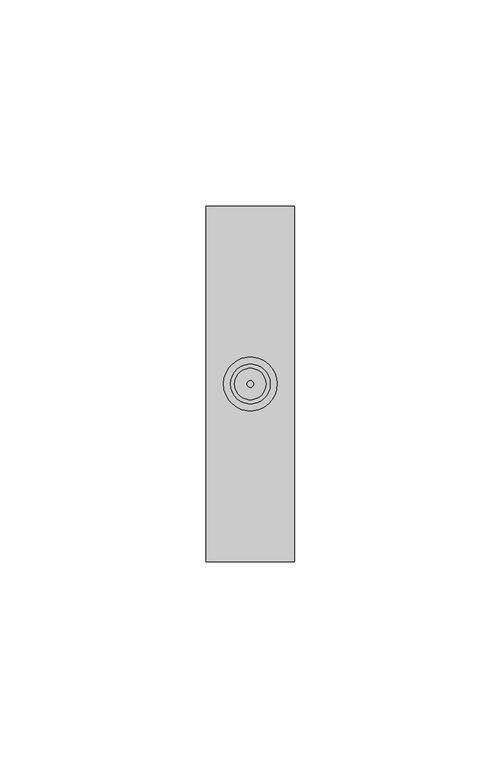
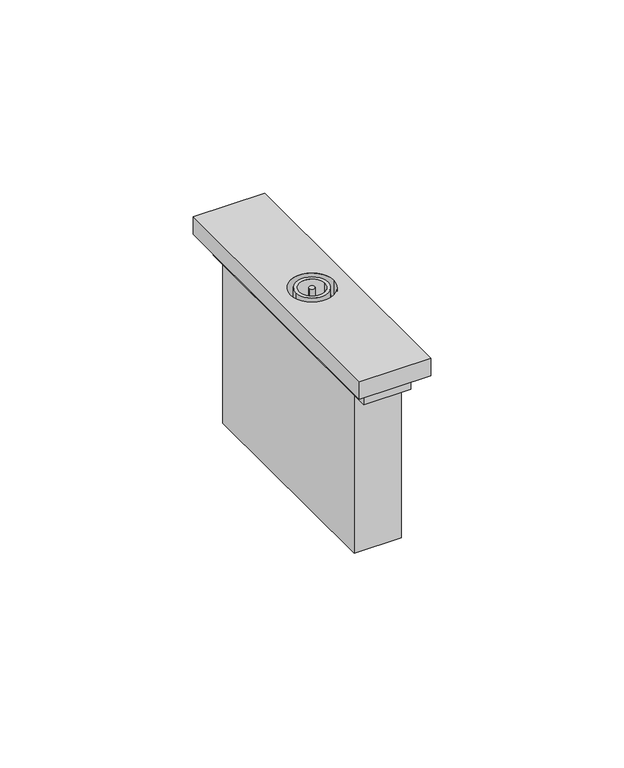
"""IFC4 building model written with IfcOpenShell, lengths in millimetres: electric appliance geometry, BT_LN-1M_Presa TV : Presa TV - Art. K4202P10 - 1M - Cover Bianco."""

from ifc_helpers import new_model, si_unit, point, frame, origin, origin_with_axes, origin_2d, place, context, project, spatial, polyline, circle_curve, trimmed, segment, composite_curve, outline, extrude, source, transform, mapped, element, save


def electric_appliance_a1e4e876(model_context):
    return source(origin(), model_context, "Body", "SweptSolid", [
        extrude(outline(polyline([(-7.0, 39.0), (7.0, 39.0), (7.0, -39.0), (-7.0, -39.0), (-7.0, 39.0)]), holes=[composite_curve([segment(trimmed(circle_curve(origin_2d(), 6.8), [point((0.0, -6.8))], [point((0.0, 6.8))], True, "CARTESIAN"), True, "CONTINUOUS"), segment(trimmed(circle_curve(origin_2d(), 6.8), [point((0.0, 6.8))], [point((0.0, -6.8))], True, "CARTESIAN"), True, "CONTINUOUS")], self_intersect=False)]), frame((0.0, 0.0, 50.0), z_axis=(0.0, 0.0, 1.0), x_axis=(1.0, 0.0, 0.0)), (0.0, 0.0, 1.0), 5.5),
        extrude(outline(polyline([(-7.0, 34.0), (7.0, 34.0), (7.0, -34.0), (-7.0, -34.0), (-7.0, 34.0)])), origin_with_axes(), (0.0, 0.0, 1.0), 50.0),
        extrude(outline(polyline([(-10.7, -43.0), (-10.7, 43.0), (10.7, 43.0), (10.7, -43.0), (-10.7, -43.0)]), holes=[composite_curve([segment(trimmed(circle_curve(origin_2d(), 6.5), [point((6.5, 0.0))], [point((-6.5, 0.0))], True, "CARTESIAN"), True, "CONTINUOUS"), segment(trimmed(circle_curve(origin_2d(), 6.5), [point((-6.5, 0.0))], [point((6.5, 0.0))], True, "CARTESIAN"), True, "CONTINUOUS")], self_intersect=False)]), frame((0.0, 0.0, 55.5), z_axis=(0.0, 0.0, 1.0), x_axis=(1.0, 0.0, 0.0)), (0.0, 0.0, 1.0), 5.5),
        extrude(outline(composite_curve([segment(trimmed(circle_curve(origin_2d(), 4.8), [point((4.8, 0.0))], [point((-4.8, 0.0))], False, "CARTESIAN"), True, "CONTINUOUS"), segment(trimmed(circle_curve(origin_2d(), 4.8), [point((-4.8, 0.0))], [point((4.8, 0.0))], False, "CARTESIAN"), True, "CONTINUOUS")], self_intersect=False), holes=[composite_curve([segment(trimmed(circle_curve(origin_2d(), 3.8), [point((3.8, 0.0))], [point((-3.8, 0.0))], True, "CARTESIAN"), True, "CONTINUOUS"), segment(trimmed(circle_curve(origin_2d(), 3.8), [point((-3.8, 0.0))], [point((3.8, 0.0))], True, "CARTESIAN"), True, "CONTINUOUS")], self_intersect=False)]), frame((0.0, 0.0, 50.0), z_axis=(0.0, 0.0, 1.0), x_axis=(1.0, 0.0, 0.0)), (0.0, 0.0, 1.0), 11.0),
        extrude(outline(composite_curve([segment(trimmed(circle_curve(origin_2d(), 0.8), [point((0.8, 0.0))], [point((-0.8, 0.0))], False, "CARTESIAN"), True, "CONTINUOUS"), segment(trimmed(circle_curve(origin_2d(), 0.8), [point((-0.8, 0.0))], [point((0.8, 0.0))], False, "CARTESIAN"), True, "CONTINUOUS")], self_intersect=False)), frame((0.0, 0.0, 50.0), z_axis=(0.0, 0.0, 1.0), x_axis=(1.0, 0.0, 0.0)), (0.0, 0.0, 1.0), 11.0),
    ])


if __name__ == "__main__":
    model = new_model("IFC4")
    model_context = context("Model", 3, world=origin())
    ifc_project = project(units=[si_unit("LENGTHUNIT", "METRE", prefix="MILLI")], contexts=[model_context])
    site = spatial("IfcSite", under=ifc_project)
    building = spatial("IfcBuilding", under=site)
    placement = place(None, origin())
    electric_appliance_shape = electric_appliance_a1e4e876(model_context)
    element("IfcElectricAppliance", 1, ObjectType="BT_LN-1M_Presa TV : Presa TV - Art. K4202P10 - 1M - Cover Bianco", at=placement, inside=building, context=model_context, shape_type="MappedRepresentation", body=[
        mapped(electric_appliance_shape, transform((0.0, 0.0, 0.0), x_axis=(1.0, 0.0, 0.0), y_axis=(0.0, 1.0, 0.0), z_axis=(0.0, 0.0, 1.0))),
    ])
    save(model, "model.ifc")
